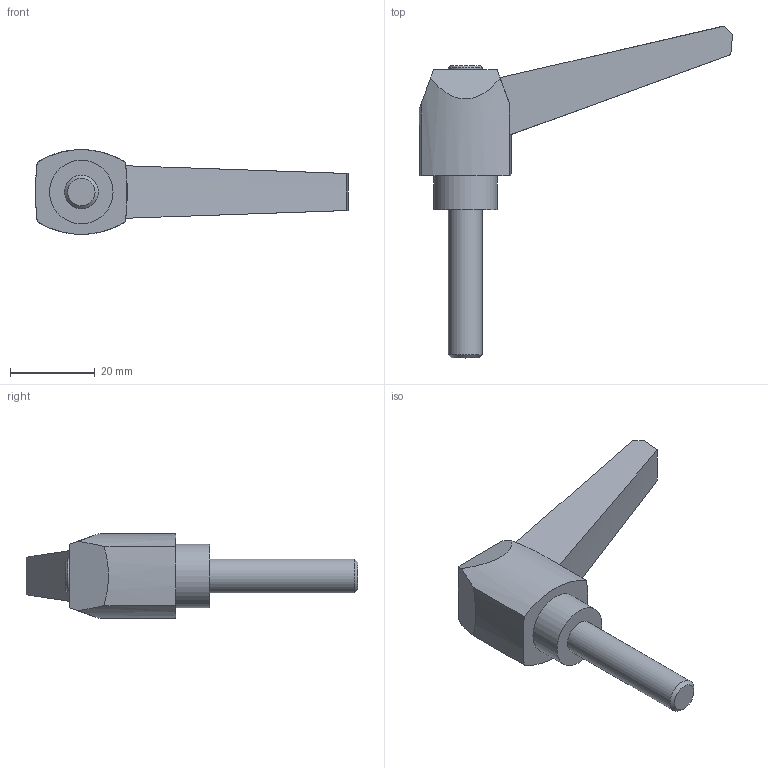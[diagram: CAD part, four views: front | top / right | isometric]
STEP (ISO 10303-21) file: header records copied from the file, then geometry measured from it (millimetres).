
FILE_DESCRIPTION( ( 'STEP AP203' ), '1' );
FILE_NAME( 'C:/Temp/Ganter_Step_05_03_2020/data/2_1/gn_500/gn_500_ms/Adjustable hand lever GN 500-63-M8-35-SW.stp', '2020-03-05T11:26:34', ( 'License CC BY-ND 4.0' ), ( 'CADENAS' ), ' ', 'PARTsolutions', ' ' );
FILE_SCHEMA( ( 'CONFIG_CONTROL_DESIGN' ) );
Length unit declared in the file: millimetre
Products named in the file (1): _Adjustable hand lever GN 500-63-M8-35-SW
Bounding box: 73.9 x 78.35 x 20 mm (x, y, z)
Volume: 18246.7 mm3; surface area: 5843.2 mm2
Topology: 1 solids, 1 shells, 24 faces, 56 edges, 37 vertices
Faces by surface type: plane 11, cylinder 7, cone 6
Full cylindrical faces by diameter (mm): 8 x2, 15 x1
Entity records: 708 total; most frequent: DIRECTION 122, CARTESIAN_POINT 117, ORIENTED_EDGE 100, EDGE_CURVE 50, AXIS2_PLACEMENT_3D 49, VERTEX_POINT 36, EDGE_LOOP 32, FACE_OUTER_BOUND 27
